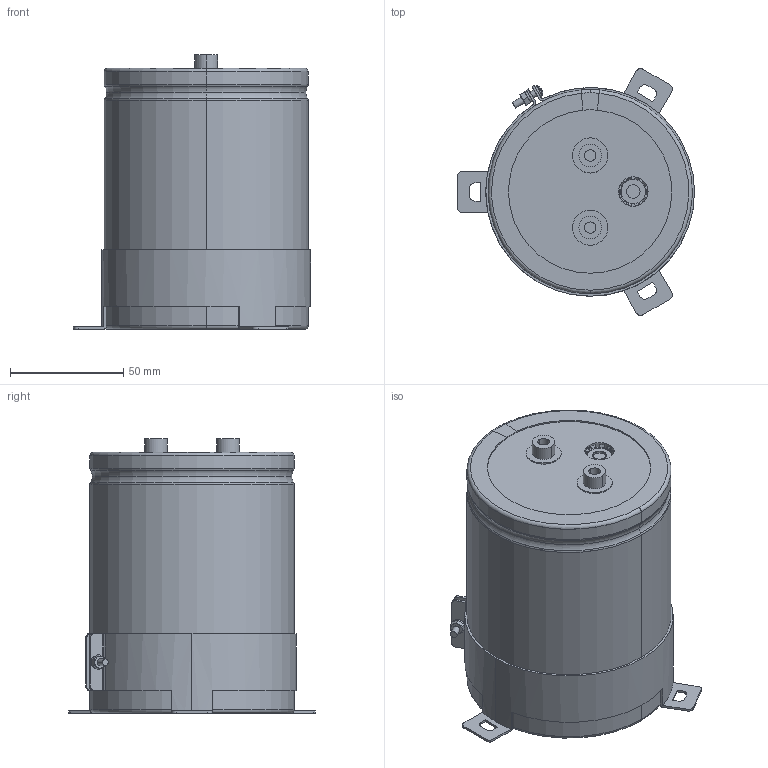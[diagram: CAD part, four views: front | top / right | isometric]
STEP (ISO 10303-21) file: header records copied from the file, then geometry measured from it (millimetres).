
FILE_DESCRIPTION(('STEP AP214'),'1');
FILE_NAME('90x115_Screw.stp','2022-03-14T08:04:26',(' '),(' '),'Spatial InterOp 3D',' ',' ');
FILE_SCHEMA(('AUTOMOTIVE_DESIGN { 1 0 10303 214 1 1 1 1 }'));
Length unit declared in the file: metre
Products named in the file (10): 90x115_Screw; Component1; Component2; Component3; Component4; Component5; Component6; Component7; Component8; Component9
Assembly tree (9 placements, depth 2):
  90x115_Screw
    Component1
    Component2
    Component3
    Component4
    Component5
    Component6
    Component7
    Component8
    Component9
Bounding box: 104.5 x 108.86 x 121 mm (x, y, z)
Volume: 734158.7 mm3; surface area: 137199.3 mm2
Topology: 9 solids, 9 shells, 352 faces, 873 edges, 551 vertices
Faces by surface type: plane 112, cylinder 110, torus 90, cone 38, sphere 2
Entity records: 11474 total; most frequent: DIRECTION 2126, CARTESIAN_POINT 1918, ORIENTED_EDGE 1746, AXIS2_PLACEMENT_3D 919, EDGE_CURVE 873, VERTEX_POINT 551, CIRCLE 511, EDGE_LOOP 380
